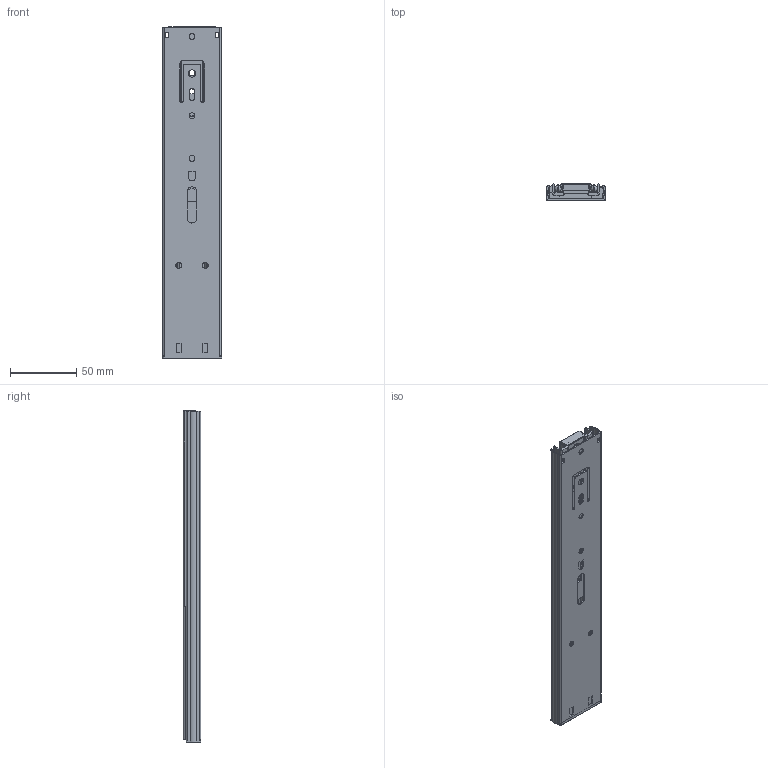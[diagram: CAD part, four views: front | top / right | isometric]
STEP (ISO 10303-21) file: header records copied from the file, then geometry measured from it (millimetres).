
FILE_DESCRIPTION(/* description */ (''),/* implementation_level */ '2;1');
FILE_NAME(/* name */ 'C:\Users\dmitruk\Documents\WORK\НАПРАВЛЯЮЩИЕ\Шариковые\Доводчик\h45 L-250 с доводчиком AKS.stp',/* time_stamp */ '2022-04-19T17:46:12+03:00',/* author */ ('dmitruk'),/* organization */ ('AKS'),/* preprocessor_version */ 'ST-DEVELOPER v16.5',/* originating_system */ 'Autodesk Inventor 2017',/* authorisation */ '');
FILE_SCHEMA (('AUTOMOTIVE_DESIGN { 1 0 10303 214 3 1 1 }'));
Length unit declared in the file: millimetre
Products named in the file (6): h45 L-250 с \X2\0434043E0432043E043404470438
043A043E043C\X0\ AKS; h45 L-250 AKS_11довод; h45 L-250 AKS_12довод; h45 L-250_13; h45 L-250 AKS_2довод; Доводчик
Assembly tree (5 placements, depth 2):
  h45 L-250 с \X2\0434043E0432043E043404470438
043A043E043C\X0\ AKS
    h45 L-250 AKS_11довод
    h45 L-250 AKS_12довод
    h45 L-250_13
    h45 L-250 AKS_2довод
    Доводчик
Bounding box: 45.28 x 13 x 250.92 mm (x, y, z)
Volume: 51315.5 mm3; surface area: 82288.1 mm2
Topology: 7 solids, 7 shells, 555 faces, 1604 edges, 1047 vertices
Faces by surface type: plane 332, cylinder 191, sphere 32
Full cylindrical faces by diameter (mm): 4.5 x8, 5.5 x1
Entity records: 18687 total; most frequent: CARTESIAN_POINT 3386, ORIENTED_EDGE 3186, DIRECTION 3172, EDGE_CURVE 1593, LINE 1110, VECTOR 1110, VERTEX_POINT 1045, AXIS2_PLACEMENT_3D 1031
